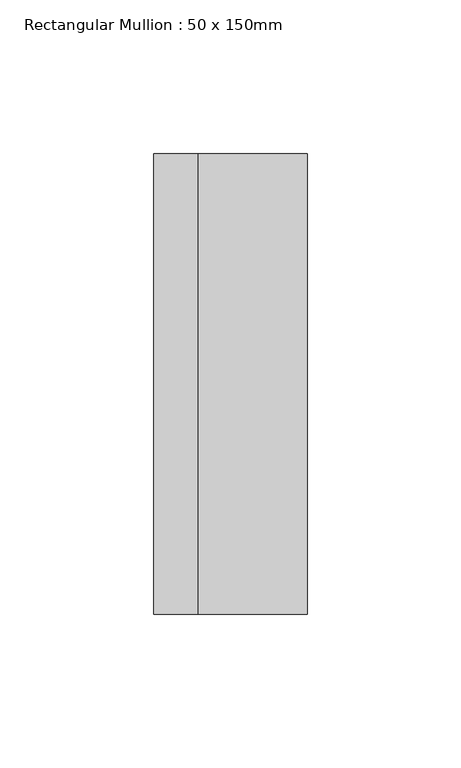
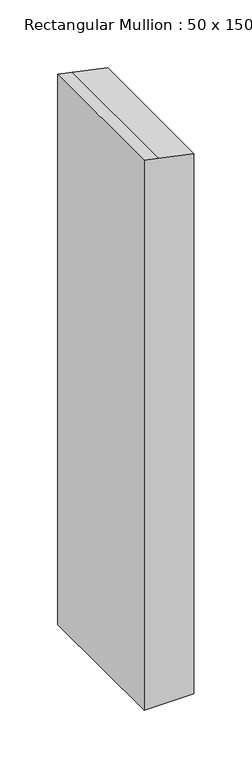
"""IFC4 building model written with IfcOpenShell, lengths in millimetres: member geometry, Rectangular Mullion : 50 x 150mm."""

from ifc_helpers import new_model, si_unit, frame, origin, place, context, project, spatial, polyline, outline, extrude, source, transform, mapped, element, save


def rectangular_mullion_50_x_150mm_5c538901(model_context):
    return source(origin(), model_context, "Body", "SweptSolid", [
        extrude(outline(polyline([(-56.4764416, 25.0), (-48.8945724, -10.4556584), (-45.7843976, -25.0), (-628.7680175, -25.0), (-628.7680175, 25.0), (-56.4764416, 25.0)])), frame((0.0, -75.0, 0.0), z_axis=(0.0, 1.0, 0.0), x_axis=(0.0, 0.0, 1.0)), (0.0, 0.0, 1.0), 150.0),
    ])


if __name__ == "__main__":
    model = new_model("IFC4")
    model_context = context("Model", 3, world=origin())
    ifc_project = project(units=[si_unit("LENGTHUNIT", "METRE", prefix="MILLI")], contexts=[model_context])
    site = spatial("IfcSite", under=ifc_project)
    building = spatial("IfcBuilding", under=site)
    placement = place(None, origin())
    rectangular_mullion_50_x_150mm_shape = rectangular_mullion_50_x_150mm_5c538901(model_context)
    element("IfcMember", 1, ObjectType="Rectangular Mullion : 50 x 150mm", at=placement, inside=building, context=model_context, shape_type="MappedRepresentation", body=[
        mapped(rectangular_mullion_50_x_150mm_shape, transform((0.0, 0.0, 0.0), x_axis=(1.0, 0.0, 0.0), y_axis=(0.0, 1.0, 0.0), z_axis=(0.0, 0.0, 1.0))),
    ])
    save(model, "model.ifc")
